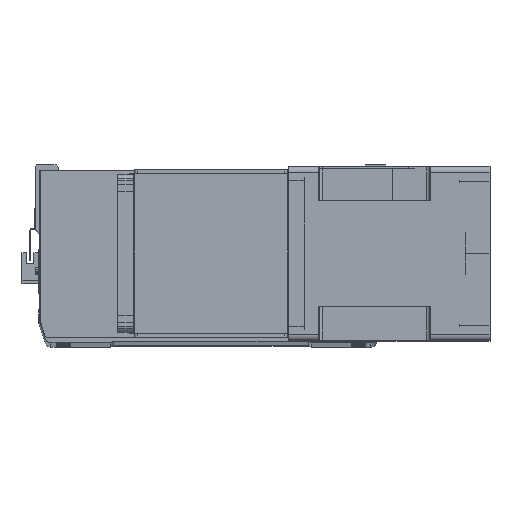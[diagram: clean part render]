
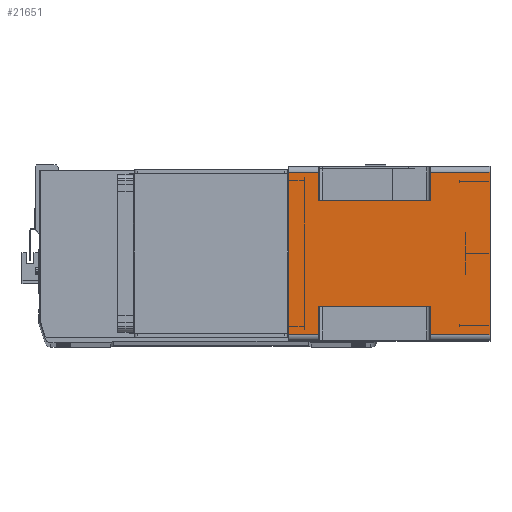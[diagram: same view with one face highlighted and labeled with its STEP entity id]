
A CAD part, top view. The second image highlights one B-rep face of the part: STEP entity #21651.
In plain terms, the highlighted planar face has unit normal (0, 0, 1) as drawn and (1, 0, 0) by its records, which use the part's own axes.
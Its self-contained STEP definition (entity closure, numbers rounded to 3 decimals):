
#306 = VECTOR ( 'NONE', #17492, 1000. ) ;
#621 = DIRECTION ( 'NONE',  ( 0., 1., 0. ) ) ;
#1646 = VECTOR ( 'NONE', #621, 1000. ) ;
#2205 = DIRECTION ( 'NONE',  ( 1., 0., 0. ) ) ;
#2297 = VERTEX_POINT ( 'NONE', #9528 ) ;
#2426 = VECTOR ( 'NONE', #30501, 1000. ) ;
#2594 = ORIENTED_EDGE ( 'NONE', *, *, #9626, .F. ) ;
#2805 = CARTESIAN_POINT ( 'NONE',  ( 71., 66., -164. ) ) ;
#3106 = DIRECTION ( 'NONE',  ( 0., 1., 0. ) ) ;
#3349 = CARTESIAN_POINT ( 'NONE',  ( 71., -43., -115.5 ) ) ;
#3881 = CARTESIAN_POINT ( 'NONE',  ( 71., 66., -115.5 ) ) ;
#4270 = DIRECTION ( 'NONE',  ( 0., 0., 1. ) ) ;
#4748 = CARTESIAN_POINT ( 'NONE',  ( 71., 43., -115.5 ) ) ;
#5347 = ORIENTED_EDGE ( 'NONE', *, *, #17229, .T. ) ;
#5549 = LINE ( 'NONE', #8019, #2426 ) ;
#5898 = VECTOR ( 'NONE', #16137, 1000. ) ;
#6427 = EDGE_CURVE ( 'NONE', #20708, #17075, #25395, .T. ) ;
#6801 = PLANE ( 'NONE',  #6860 ) ;
#6821 = VERTEX_POINT ( 'NONE', #16977 ) ;
#6860 = AXIS2_PLACEMENT_3D ( 'NONE', #17100, #2205, #9346 ) ;
#7252 = ORIENTED_EDGE ( 'NONE', *, *, #28300, .F. ) ;
#7302 = FACE_OUTER_BOUND ( 'NONE', #23336, .T. ) ;
#7369 = EDGE_CURVE ( 'NONE', #24776, #31486, #22279, .T. ) ;
#7441 = VERTEX_POINT ( 'NONE', #17721 ) ;
#8019 = CARTESIAN_POINT ( 'NONE',  ( 71., 43., -164. ) ) ;
#8907 = VECTOR ( 'NONE', #3106, 1000. ) ;
#9346 = DIRECTION ( 'NONE',  ( 0., 1., 0. ) ) ;
#9378 = CARTESIAN_POINT ( 'NONE',  ( 71., 66., -24.5 ) ) ;
#9528 = CARTESIAN_POINT ( 'NONE',  ( 71., -66., -164. ) ) ;
#9541 = DIRECTION ( 'NONE',  ( 0., 0., 1. ) ) ;
#9626 = EDGE_CURVE ( 'NONE', #7441, #6821, #24422, .T. ) ;
#9786 = CARTESIAN_POINT ( 'NONE',  ( 71., 66., -164. ) ) ;
#10051 = CARTESIAN_POINT ( 'NONE',  ( 71., 43., -115.5 ) ) ;
#10471 = VERTEX_POINT ( 'NONE', #31160 ) ;
#10576 = ORIENTED_EDGE ( 'NONE', *, *, #26916, .F. ) ;
#10897 = LINE ( 'NONE', #25370, #8907 ) ;
#11106 = VERTEX_POINT ( 'NONE', #24801 ) ;
#11199 = EDGE_CURVE ( 'NONE', #24537, #10471, #23149, .T. ) ;
#11681 = CARTESIAN_POINT ( 'NONE',  ( 71., -66., -164. ) ) ;
#12012 = ORIENTED_EDGE ( 'NONE', *, *, #21413, .T. ) ;
#12052 = ORIENTED_EDGE ( 'NONE', *, *, #13300, .F. ) ;
#12590 = LINE ( 'NONE', #20622, #28668 ) ;
#13300 = EDGE_CURVE ( 'NONE', #20708, #10471, #18863, .T. ) ;
#13499 = CARTESIAN_POINT ( 'NONE',  ( 71., -43., -164. ) ) ;
#14206 = CARTESIAN_POINT ( 'NONE',  ( 71., -66., 0. ) ) ;
#14286 = DIRECTION ( 'NONE',  ( 0., 0., 1. ) ) ;
#14754 = DIRECTION ( 'NONE',  ( 0., 1., 0. ) ) ;
#15053 = VECTOR ( 'NONE', #27467, 1000. ) ;
#15775 = LINE ( 'NONE', #11681, #16546 ) ;
#16137 = DIRECTION ( 'NONE',  ( 0., 0., 1. ) ) ;
#16546 = VECTOR ( 'NONE', #14286, 1000. ) ;
#16644 = CARTESIAN_POINT ( 'NONE',  ( 71., 66., -164. ) ) ;
#16977 = CARTESIAN_POINT ( 'NONE',  ( 71., 66., 0. ) ) ;
#17075 = VERTEX_POINT ( 'NONE', #24049 ) ;
#17100 = CARTESIAN_POINT ( 'NONE',  ( 71., -66., -164. ) ) ;
#17229 = EDGE_CURVE ( 'NONE', #24557, #24776, #19722, .T. ) ;
#17492 = DIRECTION ( 'NONE',  ( 0., -1., 0. ) ) ;
#17721 = CARTESIAN_POINT ( 'NONE',  ( 71., -66., 0. ) ) ;
#17805 = VECTOR ( 'NONE', #4270, 1000. ) ;
#17967 = EDGE_CURVE ( 'NONE', #11106, #29782, #12590, .T. ) ;
#18357 = DIRECTION ( 'NONE',  ( 0., 1., 0. ) ) ;
#18863 = LINE ( 'NONE', #13499, #5898 ) ;
#19287 = CARTESIAN_POINT ( 'NONE',  ( 71., -66., -164. ) ) ;
#19722 = LINE ( 'NONE', #9786, #15053 ) ;
#19986 = DIRECTION ( 'NONE',  ( 0., -1., 0. ) ) ;
#20257 = CARTESIAN_POINT ( 'NONE',  ( 71., -43., -24.5 ) ) ;
#20368 = VECTOR ( 'NONE', #19986, 1000. ) ;
#20622 = CARTESIAN_POINT ( 'NONE',  ( 71., -66., -24.5 ) ) ;
#20672 = ORIENTED_EDGE ( 'NONE', *, *, #11199, .T. ) ;
#20708 = VERTEX_POINT ( 'NONE', #3349 ) ;
#21413 = EDGE_CURVE ( 'NONE', #2297, #24557, #10897, .T. ) ;
#21651 = ADVANCED_FACE ( 'NONE', ( #7302 ), #6801, .T. ) ;
#22279 = LINE ( 'NONE', #10051, #306 ) ;
#23149 = LINE ( 'NONE', #20257, #1646 ) ;
#23336 = EDGE_LOOP ( 'NONE', ( #12052, #24968, #28632, #12012, #5347, #25811, #7252, #25404, #29294, #2594, #10576, #20672 ) ) ;
#23423 = EDGE_CURVE ( 'NONE', #29782, #6821, #29042, .T. ) ;
#24049 = CARTESIAN_POINT ( 'NONE',  ( 71., -66., -115.5 ) ) ;
#24422 = LINE ( 'NONE', #14206, #25986 ) ;
#24537 = VERTEX_POINT ( 'NONE', #27850 ) ;
#24557 = VERTEX_POINT ( 'NONE', #2805 ) ;
#24776 = VERTEX_POINT ( 'NONE', #3881 ) ;
#24801 = CARTESIAN_POINT ( 'NONE',  ( 71., 43., -24.5 ) ) ;
#24968 = ORIENTED_EDGE ( 'NONE', *, *, #6427, .T. ) ;
#25370 = CARTESIAN_POINT ( 'NONE',  ( 71., -66., -164. ) ) ;
#25395 = LINE ( 'NONE', #27290, #20368 ) ;
#25404 = ORIENTED_EDGE ( 'NONE', *, *, #17967, .T. ) ;
#25811 = ORIENTED_EDGE ( 'NONE', *, *, #7369, .T. ) ;
#25986 = VECTOR ( 'NONE', #14754, 1000. ) ;
#26382 = EDGE_CURVE ( 'NONE', #2297, #17075, #27546, .T. ) ;
#26916 = EDGE_CURVE ( 'NONE', #24537, #7441, #15775, .T. ) ;
#27290 = CARTESIAN_POINT ( 'NONE',  ( 71., -66., -115.5 ) ) ;
#27467 = DIRECTION ( 'NONE',  ( 0., 0., 1. ) ) ;
#27546 = LINE ( 'NONE', #19287, #17805 ) ;
#27850 = CARTESIAN_POINT ( 'NONE',  ( 71., -66., -24.5 ) ) ;
#28300 = EDGE_CURVE ( 'NONE', #11106, #31486, #5549, .T. ) ;
#28632 = ORIENTED_EDGE ( 'NONE', *, *, #26382, .F. ) ;
#28668 = VECTOR ( 'NONE', #18357, 1000. ) ;
#29042 = LINE ( 'NONE', #16644, #31431 ) ;
#29294 = ORIENTED_EDGE ( 'NONE', *, *, #23423, .T. ) ;
#29782 = VERTEX_POINT ( 'NONE', #9378 ) ;
#30501 = DIRECTION ( 'NONE',  ( 0., 0., -1. ) ) ;
#31160 = CARTESIAN_POINT ( 'NONE',  ( 71., -43., -24.5 ) ) ;
#31431 = VECTOR ( 'NONE', #9541, 1000. ) ;
#31486 = VERTEX_POINT ( 'NONE', #4748 ) ;
